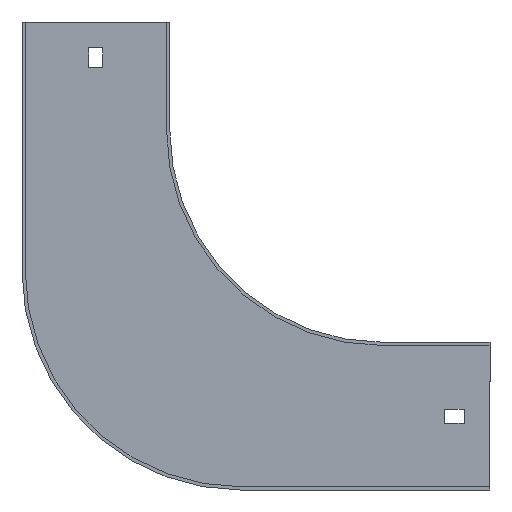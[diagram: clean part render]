
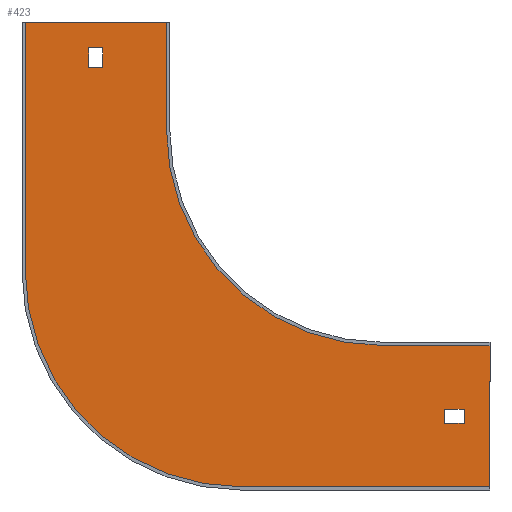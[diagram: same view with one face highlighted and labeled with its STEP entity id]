
A CAD part, front view. The second image highlights one B-rep face of the part: STEP entity #423.
In plain terms, the highlighted planar face has unit normal (0, -1, 0).
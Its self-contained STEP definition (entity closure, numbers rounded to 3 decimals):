
#10 = EDGE_CURVE ( 'NONE', #800, #854, #91, .T. ) ;
#12 = ORIENTED_EDGE ( 'NONE', *, *, #674, .F. ) ;
#14 = DIRECTION ( 'NONE',  ( 1., 0., 0. ) ) ;
#35 = CARTESIAN_POINT ( 'NONE',  ( -100., -1.5, 50. ) ) ;
#37 = DIRECTION ( 'NONE',  ( 1., 0., 0. ) ) ;
#40 = EDGE_CURVE ( 'NONE', #854, #474, #629, .T. ) ;
#42 = VECTOR ( 'NONE', #622, 1000. ) ;
#49 = VERTEX_POINT ( 'NONE', #35 ) ;
#52 = ORIENTED_EDGE ( 'NONE', *, *, #763, .F. ) ;
#68 = VECTOR ( 'NONE', #570, 1000. ) ;
#75 = DIRECTION ( 'NONE',  ( -1., 0., 0. ) ) ;
#77 = EDGE_CURVE ( 'NONE', #474, #668, #825, .T. ) ;
#91 = LINE ( 'NONE', #691, #42 ) ;
#96 = DIRECTION ( 'NONE',  ( 0., 0., -1. ) ) ;
#107 = EDGE_CURVE ( 'NONE', #272, #683, #714, .T. ) ;
#109 = DIRECTION ( 'NONE',  ( 0., 0., -1. ) ) ;
#118 = VECTOR ( 'NONE', #37, 1000. ) ;
#125 = CARTESIAN_POINT ( 'NONE',  ( 50., -1.5, -100. ) ) ;
#131 = CARTESIAN_POINT ( 'NONE',  ( 0., -1.5, 0. ) ) ;
#132 = VECTOR ( 'NONE', #306, 1000. ) ;
#133 = VECTOR ( 'NONE', #391, 1000. ) ;
#135 = CARTESIAN_POINT ( 'NONE',  ( -136., -1.5, 29. ) ) ;
#157 = LINE ( 'NONE', #613, #184 ) ;
#158 = FACE_OUTER_BOUND ( 'NONE', #542, .T. ) ;
#160 = VECTOR ( 'NONE', #75, 1000. ) ;
#161 = DIRECTION ( 'NONE',  ( 0., 0., 1. ) ) ;
#163 = VERTEX_POINT ( 'NONE', #710 ) ;
#170 = CARTESIAN_POINT ( 'NONE',  ( -65.5, -1.5, -65.5 ) ) ;
#175 = EDGE_CURVE ( 'NONE', #473, #291, #377, .T. ) ;
#176 = DIRECTION ( 'NONE',  ( 0., 0., -1. ) ) ;
#177 = VERTEX_POINT ( 'NONE', #782 ) ;
#179 = DIRECTION ( 'NONE',  ( 0., 0., 1. ) ) ;
#184 = VECTOR ( 'NONE', #14, 1000. ) ;
#188 = DIRECTION ( 'NONE',  ( 0., -1., 0. ) ) ;
#203 = ORIENTED_EDGE ( 'NONE', *, *, #234, .F. ) ;
#212 = EDGE_LOOP ( 'NONE', ( #52, #361, #756, #12 ) ) ;
#224 = VECTOR ( 'NONE', #176, 1000. ) ;
#230 = EDGE_CURVE ( 'NONE', #605, #800, #534, .T. ) ;
#233 = CARTESIAN_POINT ( 'NONE',  ( 38., -1.5, 0. ) ) ;
#234 = EDGE_CURVE ( 'NONE', #49, #605, #397, .T. ) ;
#236 = DIRECTION ( 'NONE',  ( 0., 0., -1. ) ) ;
#255 = CARTESIAN_POINT ( 'NONE',  ( -129.5, -1.5, 29. ) ) ;
#257 = DIRECTION ( 'NONE',  ( 0., 0., -1. ) ) ;
#261 = CARTESIAN_POINT ( 'NONE',  ( 38., -1.5, -136. ) ) ;
#262 = ORIENTED_EDGE ( 'NONE', *, *, #230, .F. ) ;
#264 = DIRECTION ( 'NONE',  ( 1., 0., 0. ) ) ;
#268 = CARTESIAN_POINT ( 'NONE',  ( -136., -1.5, 38. ) ) ;
#272 = VERTEX_POINT ( 'NONE', #261 ) ;
#283 = ORIENTED_EDGE ( 'NONE', *, *, #551, .T. ) ;
#291 = VERTEX_POINT ( 'NONE', #667 ) ;
#298 = LINE ( 'NONE', #636, #303 ) ;
#299 = PLANE ( 'NONE',  #740 ) ;
#303 = VECTOR ( 'NONE', #109, 1000. ) ;
#305 = DIRECTION ( 'NONE',  ( -1., 0., 0. ) ) ;
#306 = DIRECTION ( 'NONE',  ( 0., 0., 1. ) ) ;
#308 = VERTEX_POINT ( 'NONE', #268 ) ;
#313 = DIRECTION ( 'NONE',  ( 0., 1., 0. ) ) ;
#328 = CARTESIAN_POINT ( 'NONE',  ( 0., -1.5, -100. ) ) ;
#353 = VECTOR ( 'NONE', #96, 1000. ) ;
#361 = ORIENTED_EDGE ( 'NONE', *, *, #107, .F. ) ;
#362 = CARTESIAN_POINT ( 'NONE',  ( 0., -1.5, -129.5 ) ) ;
#366 = CIRCLE ( 'NONE', #850, 100. ) ;
#377 = LINE ( 'NONE', #583, #132 ) ;
#379 = ORIENTED_EDGE ( 'NONE', *, *, #768, .F. ) ;
#391 = DIRECTION ( 'NONE',  ( 0., 0., -1. ) ) ;
#397 = LINE ( 'NONE', #461, #133 ) ;
#416 = ORIENTED_EDGE ( 'NONE', *, *, #40, .F. ) ;
#421 = FACE_BOUND ( 'NONE', #584, .T. ) ;
#423 = ADVANCED_FACE ( 'NONE', ( #489, #158, #421 ), #299, .T. ) ;
#432 = CARTESIAN_POINT ( 'NONE',  ( 29., -1.5, -129.5 ) ) ;
#448 = EDGE_CURVE ( 'NONE', #308, #177, #700, .T. ) ;
#461 = CARTESIAN_POINT ( 'NONE',  ( -100., -1.5, 50. ) ) ;
#462 = EDGE_CURVE ( 'NONE', #291, #49, #847, .T. ) ;
#469 = VERTEX_POINT ( 'NONE', #255 ) ;
#471 = CARTESIAN_POINT ( 'NONE',  ( -100., -1.5, 0. ) ) ;
#473 = VERTEX_POINT ( 'NONE', #787 ) ;
#474 = VERTEX_POINT ( 'NONE', #535 ) ;
#484 = VERTEX_POINT ( 'NONE', #135 ) ;
#489 = FACE_BOUND ( 'NONE', #212, .T. ) ;
#491 = ORIENTED_EDGE ( 'NONE', *, *, #678, .T. ) ;
#494 = CARTESIAN_POINT ( 'NONE',  ( -136., -1.5, 0. ) ) ;
#498 = LINE ( 'NONE', #362, #630 ) ;
#514 = CARTESIAN_POINT ( 'NONE',  ( 50., -1.5, -165.5 ) ) ;
#518 = CARTESIAN_POINT ( 'NONE',  ( 50., -1.5, -98.5 ) ) ;
#520 = EDGE_CURVE ( 'NONE', #163, #272, #157, .T. ) ;
#522 = ORIENTED_EDGE ( 'NONE', *, *, #448, .T. ) ;
#534 = CIRCLE ( 'NONE', #656, 100. ) ;
#535 = CARTESIAN_POINT ( 'NONE',  ( 50., -1.5, -165.5 ) ) ;
#542 = EDGE_LOOP ( 'NONE', ( #679, #611, #379, #719, #416, #562, #262, #203 ) ) ;
#551 = EDGE_CURVE ( 'NONE', #469, #484, #620, .T. ) ;
#556 = ORIENTED_EDGE ( 'NONE', *, *, #732, .T. ) ;
#561 = VECTOR ( 'NONE', #179, 1000. ) ;
#562 = ORIENTED_EDGE ( 'NONE', *, *, #10, .F. ) ;
#570 = DIRECTION ( 'NONE',  ( -1., 0., 0. ) ) ;
#583 = CARTESIAN_POINT ( 'NONE',  ( -165.5, -1.5, -65.5 ) ) ;
#584 = EDGE_LOOP ( 'NONE', ( #522, #556, #283, #491 ) ) ;
#601 = CARTESIAN_POINT ( 'NONE',  ( 0., -1.5, 29. ) ) ;
#605 = VERTEX_POINT ( 'NONE', #471 ) ;
#611 = ORIENTED_EDGE ( 'NONE', *, *, #175, .F. ) ;
#613 = CARTESIAN_POINT ( 'NONE',  ( 0., -1.5, -136. ) ) ;
#620 = LINE ( 'NONE', #601, #160 ) ;
#622 = DIRECTION ( 'NONE',  ( 1., 0., 0. ) ) ;
#623 = CARTESIAN_POINT ( 'NONE',  ( -129.5, -1.5, 0. ) ) ;
#626 = CARTESIAN_POINT ( 'NONE',  ( -65.5, -1.5, -165.5 ) ) ;
#627 = DIRECTION ( 'NONE',  ( 0., -1., 0. ) ) ;
#629 = LINE ( 'NONE', #518, #224 ) ;
#630 = VECTOR ( 'NONE', #305, 1000. ) ;
#636 = CARTESIAN_POINT ( 'NONE',  ( 29., -1.5, 0. ) ) ;
#656 = AXIS2_PLACEMENT_3D ( 'NONE', #131, #188, #257 ) ;
#667 = CARTESIAN_POINT ( 'NONE',  ( -165.5, -1.5, 50. ) ) ;
#668 = VERTEX_POINT ( 'NONE', #626 ) ;
#674 = EDGE_CURVE ( 'NONE', #773, #163, #298, .T. ) ;
#678 = EDGE_CURVE ( 'NONE', #484, #308, #822, .T. ) ;
#679 = ORIENTED_EDGE ( 'NONE', *, *, #462, .F. ) ;
#683 = VERTEX_POINT ( 'NONE', #818 ) ;
#691 = CARTESIAN_POINT ( 'NONE',  ( 0., -1.5, -100. ) ) ;
#700 = LINE ( 'NONE', #709, #118 ) ;
#703 = VECTOR ( 'NONE', #264, 1000. ) ;
#709 = CARTESIAN_POINT ( 'NONE',  ( 0., -1.5, 38. ) ) ;
#710 = CARTESIAN_POINT ( 'NONE',  ( 29., -1.5, -136. ) ) ;
#714 = LINE ( 'NONE', #233, #561 ) ;
#719 = ORIENTED_EDGE ( 'NONE', *, *, #77, .F. ) ;
#724 = CARTESIAN_POINT ( 'NONE',  ( -167., -1.5, 50. ) ) ;
#732 = EDGE_CURVE ( 'NONE', #177, #469, #753, .T. ) ;
#740 = AXIS2_PLACEMENT_3D ( 'NONE', #823, #627, #236 ) ;
#753 = LINE ( 'NONE', #623, #353 ) ;
#756 = ORIENTED_EDGE ( 'NONE', *, *, #520, .F. ) ;
#761 = DIRECTION ( 'NONE',  ( 0., 0., -1. ) ) ;
#763 = EDGE_CURVE ( 'NONE', #683, #773, #498, .T. ) ;
#768 = EDGE_CURVE ( 'NONE', #668, #473, #366, .T. ) ;
#773 = VERTEX_POINT ( 'NONE', #432 ) ;
#779 = VECTOR ( 'NONE', #161, 1000. ) ;
#782 = CARTESIAN_POINT ( 'NONE',  ( -129.5, -1.5, 38. ) ) ;
#787 = CARTESIAN_POINT ( 'NONE',  ( -165.5, -1.5, -65.5 ) ) ;
#800 = VERTEX_POINT ( 'NONE', #328 ) ;
#818 = CARTESIAN_POINT ( 'NONE',  ( 38., -1.5, -129.5 ) ) ;
#822 = LINE ( 'NONE', #494, #779 ) ;
#823 = CARTESIAN_POINT ( 'NONE',  ( 0., -1.5, 0. ) ) ;
#825 = LINE ( 'NONE', #514, #68 ) ;
#847 = LINE ( 'NONE', #724, #703 ) ;
#850 = AXIS2_PLACEMENT_3D ( 'NONE', #170, #313, #761 ) ;
#854 = VERTEX_POINT ( 'NONE', #125 ) ;
